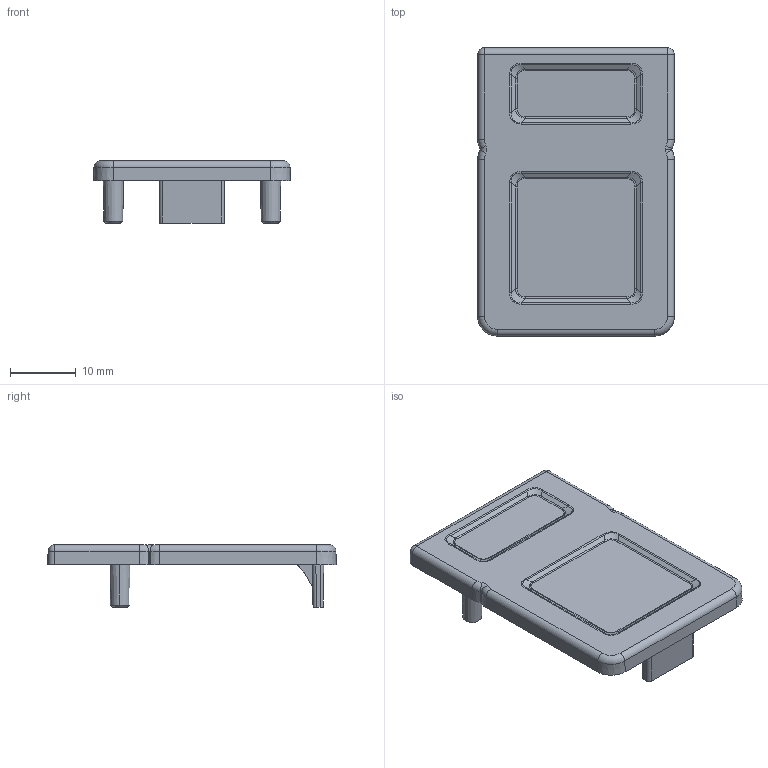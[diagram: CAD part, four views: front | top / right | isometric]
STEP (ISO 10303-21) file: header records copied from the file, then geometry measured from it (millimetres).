
FILE_DESCRIPTION (( 'STEP AP203' ), '1' );
FILE_NAME ('013.100.051.STEP', '2021-11-15T09:05:46', ( '' ), ( '' ), 'SwSTEP 2.0', 'SolidWorks 2018', '' );
FILE_SCHEMA (( 'CONFIG_CONTROL_DESIGN' ));
Length unit declared in the file: millimetre
Products named in the file (1): 013.100.051
Bounding box: 30 x 44 x 9.5 mm (x, y, z)
Volume: 2843.5 mm3; surface area: 3465.3 mm2
Topology: 1 solids, 1 shells, 401 faces, 1022 edges, 644 vertices
Faces by surface type: plane 220, cylinder 56, cone 50, torus 37, bspline 34, sphere 4
Entity records: 12894 total; most frequent: CARTESIAN_POINT 3300, ORIENTED_EDGE 2044, DIRECTION 1915, EDGE_CURVE 1022, VECTOR 693, LINE 693, VERTEX_POINT 644, AXIS2_PLACEMENT_3D 611
